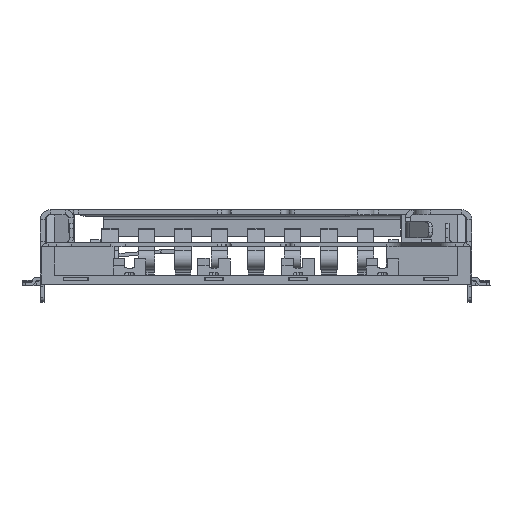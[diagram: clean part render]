
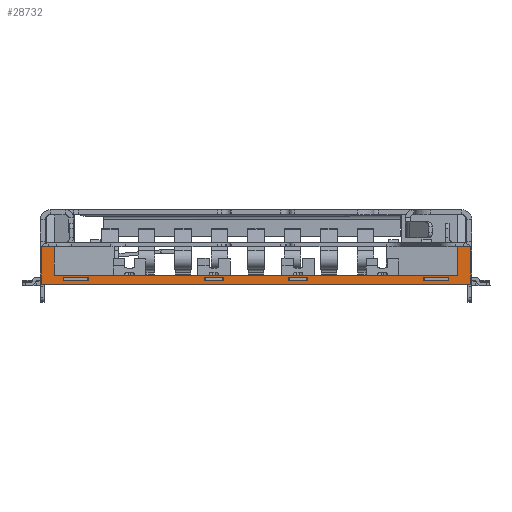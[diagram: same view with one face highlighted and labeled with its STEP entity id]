
A CAD part, front view. The second image highlights one B-rep face of the part: STEP entity #28732.
In plain terms, the highlighted planar face has unit normal (0, -1, 0).
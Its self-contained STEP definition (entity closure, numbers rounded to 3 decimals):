
#22547=CARTESIAN_POINT('Vertex',(-6.075,0.2,0.27)) ;
#22550=CARTESIAN_POINT('Line Origine',(0.,0.2,0.27)) ;
#22554=CARTESIAN_POINT('Vertex',(6.075,0.2,0.27)) ;
#25303=CARTESIAN_POINT('Vertex',(-6.475,0.2,0.)) ;
#25513=CARTESIAN_POINT('Vertex',(6.475,0.2,0.)) ;
#25516=CARTESIAN_POINT('Line Origine',(0.,0.2,0.)) ;
#28532=CARTESIAN_POINT('Vertex',(-6.075,0.2,1.12)) ;
#28535=CARTESIAN_POINT('Line Origine',(-6.075,0.2,0.695)) ;
#28550=CARTESIAN_POINT('Axis2P3D Location',(0.,0.2,0.56)) ;
#28555=CARTESIAN_POINT('Line Origine',(-6.275,0.2,1.12)) ;
#28559=CARTESIAN_POINT('Vertex',(-6.475,0.2,1.12)) ;
#28562=CARTESIAN_POINT('Line Origine',(-6.475,0.2,0.56)) ;
#28567=CARTESIAN_POINT('Line Origine',(6.475,0.2,0.56)) ;
#28571=CARTESIAN_POINT('Vertex',(6.475,0.2,1.12)) ;
#28574=CARTESIAN_POINT('Line Origine',(6.275,0.2,1.12)) ;
#28578=CARTESIAN_POINT('Vertex',(6.075,0.2,1.12)) ;
#28581=CARTESIAN_POINT('Line Origine',(6.075,0.2,0.695)) ;
#28596=CARTESIAN_POINT('Line Origine',(-5.8,0.2,0.15)) ;
#28600=CARTESIAN_POINT('Vertex',(-5.8,0.2,0.1)) ;
#28602=CARTESIAN_POINT('Vertex',(-5.8,0.2,0.2)) ;
#28605=CARTESIAN_POINT('Line Origine',(-5.431,0.2,0.2)) ;
#28609=CARTESIAN_POINT('Vertex',(-5.062,0.2,0.2)) ;
#28612=CARTESIAN_POINT('Line Origine',(-5.062,0.2,0.15)) ;
#28616=CARTESIAN_POINT('Vertex',(-5.062,0.2,0.1)) ;
#28619=CARTESIAN_POINT('Line Origine',(-5.431,0.2,0.1)) ;
#28630=CARTESIAN_POINT('Line Origine',(5.062,0.2,0.15)) ;
#28634=CARTESIAN_POINT('Vertex',(5.062,0.2,0.1)) ;
#28636=CARTESIAN_POINT('Vertex',(5.062,0.2,0.2)) ;
#28639=CARTESIAN_POINT('Line Origine',(5.431,0.2,0.2)) ;
#28643=CARTESIAN_POINT('Vertex',(5.8,0.2,0.2)) ;
#28646=CARTESIAN_POINT('Line Origine',(5.8,0.2,0.15)) ;
#28650=CARTESIAN_POINT('Vertex',(5.8,0.2,0.1)) ;
#28653=CARTESIAN_POINT('Line Origine',(5.431,0.2,0.1)) ;
#28664=CARTESIAN_POINT('Line Origine',(-1.558,0.2,0.15)) ;
#28668=CARTESIAN_POINT('Vertex',(-1.558,0.2,0.1)) ;
#28670=CARTESIAN_POINT('Vertex',(-1.558,0.2,0.2)) ;
#28673=CARTESIAN_POINT('Line Origine',(-1.27,0.2,0.2)) ;
#28677=CARTESIAN_POINT('Vertex',(-0.982,0.2,0.2)) ;
#28680=CARTESIAN_POINT('Line Origine',(-0.982,0.2,0.15)) ;
#28684=CARTESIAN_POINT('Vertex',(-0.982,0.2,0.1)) ;
#28687=CARTESIAN_POINT('Line Origine',(-1.27,0.2,0.1)) ;
#28698=CARTESIAN_POINT('Line Origine',(0.982,0.2,0.15)) ;
#28702=CARTESIAN_POINT('Vertex',(0.982,0.2,0.1)) ;
#28704=CARTESIAN_POINT('Vertex',(0.982,0.2,0.2)) ;
#28707=CARTESIAN_POINT('Line Origine',(1.27,0.2,0.2)) ;
#28711=CARTESIAN_POINT('Vertex',(1.558,0.2,0.2)) ;
#28714=CARTESIAN_POINT('Line Origine',(1.558,0.2,0.15)) ;
#28718=CARTESIAN_POINT('Vertex',(1.558,0.2,0.1)) ;
#28721=CARTESIAN_POINT('Line Origine',(1.27,0.2,0.1)) ;
#22551=DIRECTION('Vector Direction',(1.,0.,0.)) ;
#25517=DIRECTION('Vector Direction',(-1.,0.,0.)) ;
#28536=DIRECTION('Vector Direction',(0.,0.,1.)) ;
#28551=DIRECTION('Axis2P3D Direction',(0.,1.,0.)) ;
#28552=DIRECTION('Axis2P3D XDirection',(-1.,0.,0.)) ;
#28556=DIRECTION('Vector Direction',(1.,0.,0.)) ;
#28563=DIRECTION('Vector Direction',(0.,0.,1.)) ;
#28568=DIRECTION('Vector Direction',(0.,0.,-1.)) ;
#28575=DIRECTION('Vector Direction',(1.,0.,0.)) ;
#28582=DIRECTION('Vector Direction',(0.,0.,1.)) ;
#28597=DIRECTION('Vector Direction',(0.,0.,1.)) ;
#28606=DIRECTION('Vector Direction',(1.,0.,0.)) ;
#28613=DIRECTION('Vector Direction',(0.,0.,1.)) ;
#28620=DIRECTION('Vector Direction',(1.,0.,0.)) ;
#28631=DIRECTION('Vector Direction',(0.,0.,1.)) ;
#28640=DIRECTION('Vector Direction',(-1.,0.,0.)) ;
#28647=DIRECTION('Vector Direction',(0.,0.,1.)) ;
#28654=DIRECTION('Vector Direction',(-1.,0.,0.)) ;
#28665=DIRECTION('Vector Direction',(0.,0.,1.)) ;
#28674=DIRECTION('Vector Direction',(1.,0.,0.)) ;
#28681=DIRECTION('Vector Direction',(0.,0.,1.)) ;
#28688=DIRECTION('Vector Direction',(1.,0.,0.)) ;
#28699=DIRECTION('Vector Direction',(0.,0.,1.)) ;
#28708=DIRECTION('Vector Direction',(-1.,0.,0.)) ;
#28715=DIRECTION('Vector Direction',(0.,0.,1.)) ;
#28722=DIRECTION('Vector Direction',(-1.,0.,0.)) ;
#28553=AXIS2_PLACEMENT_3D('Plane Axis2P3D',#28550,#28551,#28552) ;
#28587=ORIENTED_EDGE('',*,*,#28561,.F.) ;
#28588=ORIENTED_EDGE('',*,*,#28566,.F.) ;
#28589=ORIENTED_EDGE('',*,*,#25520,.F.) ;
#28590=ORIENTED_EDGE('',*,*,#28573,.F.) ;
#28591=ORIENTED_EDGE('',*,*,#28580,.F.) ;
#28592=ORIENTED_EDGE('',*,*,#28585,.F.) ;
#28593=ORIENTED_EDGE('',*,*,#22556,.F.) ;
#28594=ORIENTED_EDGE('',*,*,#28539,.T.) ;
#28625=ORIENTED_EDGE('',*,*,#28604,.T.) ;
#28626=ORIENTED_EDGE('',*,*,#28611,.T.) ;
#28627=ORIENTED_EDGE('',*,*,#28618,.F.) ;
#28628=ORIENTED_EDGE('',*,*,#28623,.F.) ;
#28659=ORIENTED_EDGE('',*,*,#28638,.T.) ;
#28660=ORIENTED_EDGE('',*,*,#28645,.F.) ;
#28661=ORIENTED_EDGE('',*,*,#28652,.F.) ;
#28662=ORIENTED_EDGE('',*,*,#28657,.T.) ;
#28693=ORIENTED_EDGE('',*,*,#28672,.T.) ;
#28694=ORIENTED_EDGE('',*,*,#28679,.T.) ;
#28695=ORIENTED_EDGE('',*,*,#28686,.F.) ;
#28696=ORIENTED_EDGE('',*,*,#28691,.F.) ;
#28727=ORIENTED_EDGE('',*,*,#28706,.T.) ;
#28728=ORIENTED_EDGE('',*,*,#28713,.F.) ;
#28729=ORIENTED_EDGE('',*,*,#28720,.F.) ;
#28730=ORIENTED_EDGE('',*,*,#28725,.T.) ;
#28629=FACE_BOUND('',#28624,.T.) ;
#28663=FACE_BOUND('',#28658,.T.) ;
#28697=FACE_BOUND('',#28692,.T.) ;
#28731=FACE_BOUND('',#28726,.T.) ;
#22552=VECTOR('Line Direction',#22551,1.) ;
#25518=VECTOR('Line Direction',#25517,1.) ;
#28537=VECTOR('Line Direction',#28536,1.) ;
#28557=VECTOR('Line Direction',#28556,1.) ;
#28564=VECTOR('Line Direction',#28563,1.) ;
#28569=VECTOR('Line Direction',#28568,1.) ;
#28576=VECTOR('Line Direction',#28575,1.) ;
#28583=VECTOR('Line Direction',#28582,1.) ;
#28598=VECTOR('Line Direction',#28597,1.) ;
#28607=VECTOR('Line Direction',#28606,1.) ;
#28614=VECTOR('Line Direction',#28613,1.) ;
#28621=VECTOR('Line Direction',#28620,1.) ;
#28632=VECTOR('Line Direction',#28631,1.) ;
#28641=VECTOR('Line Direction',#28640,1.) ;
#28648=VECTOR('Line Direction',#28647,1.) ;
#28655=VECTOR('Line Direction',#28654,1.) ;
#28666=VECTOR('Line Direction',#28665,1.) ;
#28675=VECTOR('Line Direction',#28674,1.) ;
#28682=VECTOR('Line Direction',#28681,1.) ;
#28689=VECTOR('Line Direction',#28688,1.) ;
#28700=VECTOR('Line Direction',#28699,1.) ;
#28709=VECTOR('Line Direction',#28708,1.) ;
#28716=VECTOR('Line Direction',#28715,1.) ;
#28723=VECTOR('Line Direction',#28722,1.) ;
#28732=ADVANCED_FACE('',(#28595,#28629,#28663,#28697,#28731),#28554,.F.) ;
#22556=EDGE_CURVE('',#22548,#22555,#22553,.T.) ;
#25520=EDGE_CURVE('',#25514,#25304,#25519,.T.) ;
#28539=EDGE_CURVE('',#22548,#28533,#28538,.T.) ;
#28561=EDGE_CURVE('',#28560,#28533,#28558,.T.) ;
#28566=EDGE_CURVE('',#25304,#28560,#28565,.T.) ;
#28573=EDGE_CURVE('',#28572,#25514,#28570,.T.) ;
#28580=EDGE_CURVE('',#28579,#28572,#28577,.T.) ;
#28585=EDGE_CURVE('',#22555,#28579,#28584,.T.) ;
#28604=EDGE_CURVE('',#28601,#28603,#28599,.T.) ;
#28611=EDGE_CURVE('',#28603,#28610,#28608,.T.) ;
#28618=EDGE_CURVE('',#28617,#28610,#28615,.T.) ;
#28623=EDGE_CURVE('',#28601,#28617,#28622,.T.) ;
#28638=EDGE_CURVE('',#28635,#28637,#28633,.T.) ;
#28645=EDGE_CURVE('',#28644,#28637,#28642,.T.) ;
#28652=EDGE_CURVE('',#28651,#28644,#28649,.T.) ;
#28657=EDGE_CURVE('',#28651,#28635,#28656,.T.) ;
#28672=EDGE_CURVE('',#28669,#28671,#28667,.T.) ;
#28679=EDGE_CURVE('',#28671,#28678,#28676,.T.) ;
#28686=EDGE_CURVE('',#28685,#28678,#28683,.T.) ;
#28691=EDGE_CURVE('',#28669,#28685,#28690,.T.) ;
#28706=EDGE_CURVE('',#28703,#28705,#28701,.T.) ;
#28713=EDGE_CURVE('',#28712,#28705,#28710,.T.) ;
#28720=EDGE_CURVE('',#28719,#28712,#28717,.T.) ;
#28725=EDGE_CURVE('',#28719,#28703,#28724,.T.) ;
#28586=EDGE_LOOP('',(#28587,#28588,#28589,#28590,#28591,#28592,#28593,#28594)) ;
#28624=EDGE_LOOP('',(#28625,#28626,#28627,#28628)) ;
#28658=EDGE_LOOP('',(#28659,#28660,#28661,#28662)) ;
#28692=EDGE_LOOP('',(#28693,#28694,#28695,#28696)) ;
#28726=EDGE_LOOP('',(#28727,#28728,#28729,#28730)) ;
#28595=FACE_OUTER_BOUND('',#28586,.T.) ;
#22553=LINE('Line',#22550,#22552) ;
#25519=LINE('Line',#25516,#25518) ;
#28538=LINE('Line',#28535,#28537) ;
#28558=LINE('Line',#28555,#28557) ;
#28565=LINE('Line',#28562,#28564) ;
#28570=LINE('Line',#28567,#28569) ;
#28577=LINE('Line',#28574,#28576) ;
#28584=LINE('Line',#28581,#28583) ;
#28599=LINE('Line',#28596,#28598) ;
#28608=LINE('Line',#28605,#28607) ;
#28615=LINE('Line',#28612,#28614) ;
#28622=LINE('Line',#28619,#28621) ;
#28633=LINE('Line',#28630,#28632) ;
#28642=LINE('Line',#28639,#28641) ;
#28649=LINE('Line',#28646,#28648) ;
#28656=LINE('Line',#28653,#28655) ;
#28667=LINE('Line',#28664,#28666) ;
#28676=LINE('Line',#28673,#28675) ;
#28683=LINE('Line',#28680,#28682) ;
#28690=LINE('Line',#28687,#28689) ;
#28701=LINE('Line',#28698,#28700) ;
#28710=LINE('Line',#28707,#28709) ;
#28717=LINE('Line',#28714,#28716) ;
#28724=LINE('Line',#28721,#28723) ;
#28554=PLANE('Plane',#28553) ;
#22548=VERTEX_POINT('',#22547) ;
#22555=VERTEX_POINT('',#22554) ;
#25304=VERTEX_POINT('',#25303) ;
#25514=VERTEX_POINT('',#25513) ;
#28533=VERTEX_POINT('',#28532) ;
#28560=VERTEX_POINT('',#28559) ;
#28572=VERTEX_POINT('',#28571) ;
#28579=VERTEX_POINT('',#28578) ;
#28601=VERTEX_POINT('',#28600) ;
#28603=VERTEX_POINT('',#28602) ;
#28610=VERTEX_POINT('',#28609) ;
#28617=VERTEX_POINT('',#28616) ;
#28635=VERTEX_POINT('',#28634) ;
#28637=VERTEX_POINT('',#28636) ;
#28644=VERTEX_POINT('',#28643) ;
#28651=VERTEX_POINT('',#28650) ;
#28669=VERTEX_POINT('',#28668) ;
#28671=VERTEX_POINT('',#28670) ;
#28678=VERTEX_POINT('',#28677) ;
#28685=VERTEX_POINT('',#28684) ;
#28703=VERTEX_POINT('',#28702) ;
#28705=VERTEX_POINT('',#28704) ;
#28712=VERTEX_POINT('',#28711) ;
#28719=VERTEX_POINT('',#28718) ;
